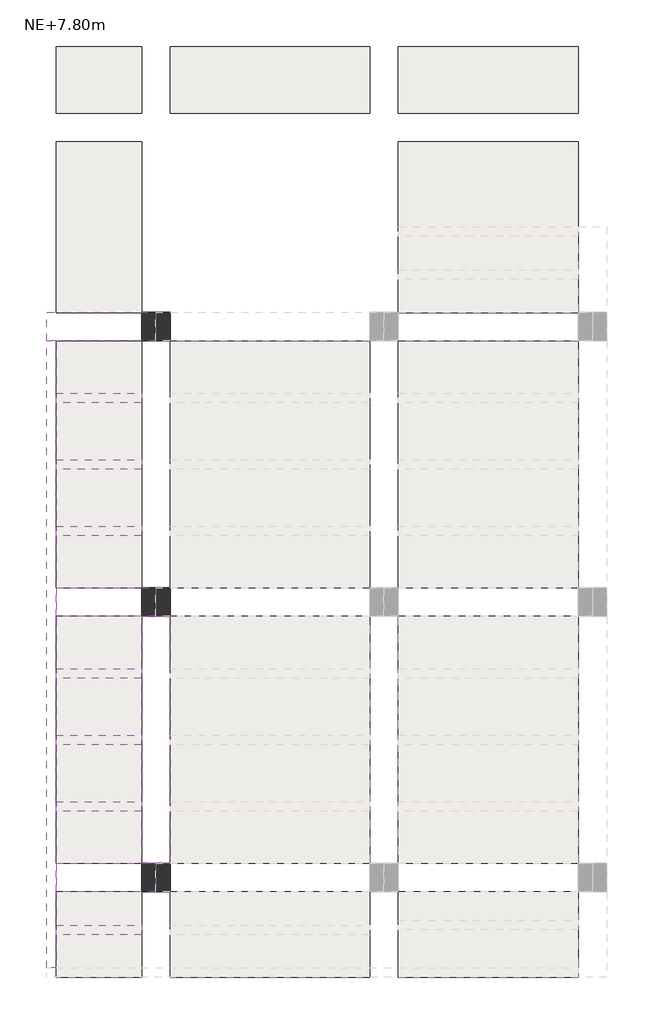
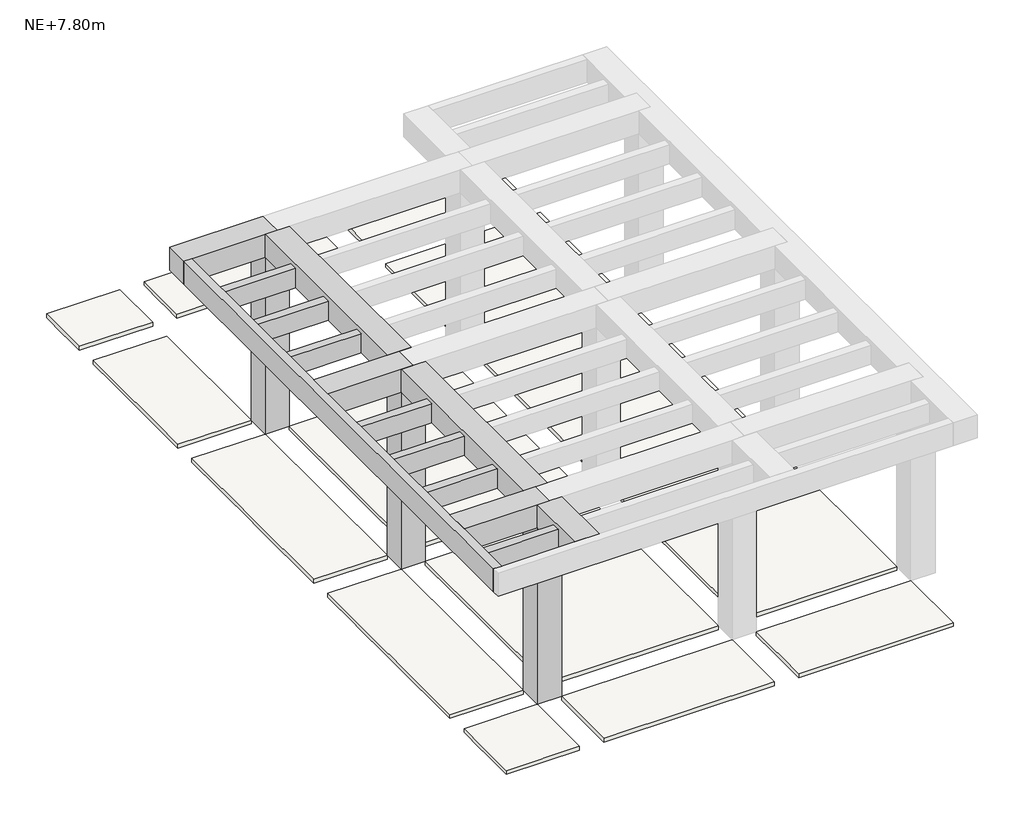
# One storey, part 1 of 2: 12 beams, 3 columns, 1 slab.
"""IFC4 building model written with IfcOpenShell, lengths in millimetres."""

from ifc_helpers import new_model, si_unit, frame, origin, place, context, project, spatial, polyline, outline, extrude, faceted_brep, element, save

model = new_model("IFC4")

# Units and contexts
model_context = context("Model", 3, world=origin())
ifc_project = project(units=[si_unit("LENGTHUNIT", "METRE", prefix="MILLI")], contexts=[model_context])

# Site, building, storey
site = spatial("IfcSite", under=ifc_project)
building = spatial("IfcBuilding", under=site)
storey = spatial("IfcBuildingStorey", under=building, Name="NE+7.80m", Elevation=7800.0)

# Beams
placement = place(None, origin())
element("IfcBeam", 1, ObjectType="Hormigón-Viga rectangular : VA (0.30x0.30m)", at=placement, inside=storey, context=model_context, shape_type="Brep", body=[
    faceted_brep([(-897.6811082, -1337.1867862, 10400.0), (-897.6811082, -1037.1867862, 10400.0), (-2047.6811082, -1037.1867862, 10400.0), (-2047.6811082, -1337.1867862, 10400.0), (-1947.6811082, -1337.1867862, 10400.0), (-1047.6811082, -1337.1867862, 10400.0), (-897.6811082, -1037.1867862, 10100.0), (-2047.6811082, -1037.1867862, 10100.0), (-897.6811082, -1337.1867862, 10100.0), (-1047.6811082, -1337.1867862, 10100.0), (-1947.6811082, -1337.1867862, 10100.0), (-2047.6811082, -1337.1867862, 10100.0)], [[[0, 1, 2, 3, 4, 5]], [[1, 6, 7, 2]], [[6, 8, 9, 10, 11, 7]], [[8, 0, 5, 4, 3, 11, 10, 9]], [[0, 8, 6, 1]], [[3, 2, 7, 11]]]),
])
element("IfcBeam", 2, ObjectType="Hormigón-Viga rectangular : VA (0.30x0.30m)", at=placement, inside=storey, context=model_context, shape_type="Brep", body=[
    faceted_brep([(-897.6811082, -4237.1867862, 10400.0), (-897.6811082, -3937.1867862, 10400.0), (-1047.6811082, -3937.1867862, 10400.0), (-1947.6811082, -3937.1867862, 10400.0), (-1947.6811082, -4237.1867862, 10400.0), (-1047.6811082, -4237.1867862, 10400.0), (-897.6811082, -3937.1867862, 10100.0), (-1047.6811082, -3937.1867862, 10100.0), (-1947.6811082, -3937.1867862, 10100.0), (-1947.6811082, -3937.1867862, 10350.0), (-897.6811082, -4237.1867862, 10100.0), (-1047.6811082, -4237.1867862, 10100.0), (-1947.6811082, -4237.1867862, 10100.0), (-1947.6811082, -4237.1867862, 10350.0)], [[[0, 1, 2, 3, 4, 5]], [[1, 6, 7, 8, 9, 3, 2]], [[6, 10, 11, 12, 8, 7]], [[10, 0, 5, 4, 13, 12, 11]], [[0, 10, 6, 1]], [[4, 3, 9, 8, 12, 13]]]),
])
element("IfcBeam", 3, ObjectType="Hormigón-Viga rectangular : VA (0.30x0.30m)", at=placement, inside=storey, context=model_context, shape_type="Brep", body=[
    faceted_brep([(-897.6811082, -7137.1867862, 10400.0), (-897.6811082, -6837.1867862, 10400.0), (-1047.6811082, -6837.1867862, 10400.0), (-1947.6811082, -6837.1867862, 10400.0), (-1947.6811082, -7137.1867862, 10400.0), (-1047.6811082, -7137.1867862, 10400.0), (-897.6811082, -6837.1867862, 10100.0), (-1047.6811082, -6837.1867862, 10100.0), (-1947.6811082, -6837.1867862, 10100.0), (-1947.6811082, -6837.1867862, 10350.0), (-897.6811082, -7137.1867862, 10100.0), (-1047.6811082, -7137.1867862, 10100.0), (-1947.6811082, -7137.1867862, 10100.0), (-1947.6811082, -7137.1867862, 10350.0)], [[[0, 1, 2, 3, 4, 5]], [[1, 6, 7, 8, 9, 3, 2]], [[6, 10, 11, 12, 8, 7]], [[10, 0, 5, 4, 13, 12, 11]], [[0, 10, 6, 1]], [[4, 3, 9, 8, 12, 13]]]),
])
element("IfcBeam", 4, ObjectType="Hormigón-Viga rectangular : VA (0.30x0.30m)", at=placement, inside=storey, context=model_context, shape_type="Brep", body=[
    faceted_brep([(-747.6811082, -7137.1867862, 10400.0), (-897.6811082, -7137.1867862, 10400.0), (-1047.6811082, -7137.1867862, 10400.0), (-1047.6811082, -7937.1867862, 10400.0), (-747.6811082, -7937.1867862, 10400.0), (-747.6811082, -7937.1867862, 10350.0), (-747.6811082, -7937.1867862, 10100.0), (-747.6811082, -7587.1867862, 10100.0), (-747.6811082, -7487.1867862, 10100.0), (-747.6811082, -7137.1867862, 10100.0), (-747.6811082, -7137.1867862, 10350.0), (-1047.6811082, -7137.1867862, 10100.0), (-897.6811082, -7137.1867862, 10100.0), (-1047.6811082, -7937.1867862, 10100.0), (-1047.6811082, -7587.1867862, 10100.0), (-1047.6811082, -7487.1867862, 10100.0), (-1047.6811082, -7137.1867862, 10350.0), (-1047.6811082, -7937.1867862, 10350.0)], [[[0, 1, 2, 3, 4]], [[0, 4, 5, 6, 7, 8, 9, 10]], [[11, 12, 9, 8, 7, 6, 13, 14, 15]], [[3, 2, 16, 11, 15, 14, 13, 17]], [[2, 1, 0, 10, 9, 12, 11, 16]], [[4, 3, 17, 13, 6, 5]]]),
    faceted_brep([(-1047.6811082, -1337.1867862, 10400.0), (-897.6811082, -1337.1867862, 10400.0), (-747.6811082, -1337.1867862, 10400.0), (-747.6811082, -1337.1867862, 10350.0), (-747.6811082, -1337.1867862, 10100.0), (-897.6811082, -1337.1867862, 10100.0), (-1047.6811082, -1337.1867862, 10100.0), (-1047.6811082, -1337.1867862, 10350.0), (-747.6811082, -3937.1867862, 10400.0), (-897.6811082, -3937.1867862, 10400.0), (-1047.6811082, -3937.1867862, 10400.0), (-1047.6811082, -3937.1867862, 10350.0), (-1047.6811082, -3937.1867862, 10100.0), (-897.6811082, -3937.1867862, 10100.0), (-747.6811082, -3937.1867862, 10100.0), (-747.6811082, -3937.1867862, 10350.0), (-747.6811082, -3387.1867862, 10100.0), (-747.6811082, -3287.1867862, 10100.0), (-747.6811082, -2687.1867862, 10100.0), (-747.6811082, -2587.1867862, 10100.0), (-747.6811082, -1987.1867862, 10100.0), (-747.6811082, -1887.1867862, 10100.0), (-1047.6811082, -3387.1867862, 10100.0), (-1047.6811082, -3287.1867862, 10100.0), (-1047.6811082, -2687.1867862, 10100.0), (-1047.6811082, -2587.1867862, 10100.0), (-1047.6811082, -1987.1867862, 10100.0), (-1047.6811082, -1887.1867862, 10100.0)], [[[0, 1, 2, 3, 4, 5, 6, 7]], [[8, 9, 10, 11, 12, 13, 14, 15]], [[2, 8, 15, 14, 16, 17, 18, 19, 20, 21, 4, 3]], [[2, 1, 0, 10, 9, 8]], [[6, 5, 4, 21, 20, 19, 18, 17, 16, 14, 13, 12, 22, 23, 24, 25, 26, 27]], [[10, 0, 7, 6, 27, 26, 25, 24, 23, 22, 12, 11]]]),
    faceted_brep([(-1047.6811082, -4237.1867862, 10400.0), (-897.6811082, -4237.1867862, 10400.0), (-747.6811082, -4237.1867862, 10400.0), (-747.6811082, -4237.1867862, 10350.0), (-747.6811082, -4237.1867862, 10100.0), (-897.6811082, -4237.1867862, 10100.0), (-1047.6811082, -4237.1867862, 10100.0), (-1047.6811082, -4237.1867862, 10350.0), (-747.6811082, -6837.1867862, 10400.0), (-897.6811082, -6837.1867862, 10400.0), (-1047.6811082, -6837.1867862, 10400.0), (-1047.6811082, -6837.1867862, 10350.0), (-1047.6811082, -6837.1867862, 10100.0), (-897.6811082, -6837.1867862, 10100.0), (-747.6811082, -6837.1867862, 10100.0), (-747.6811082, -6837.1867862, 10350.0), (-747.6811082, -6287.1867862, 10100.0), (-747.6811082, -6187.1867862, 10100.0), (-747.6811082, -5587.1867862, 10100.0), (-747.6811082, -5487.1867862, 10100.0), (-747.6811082, -4887.1867862, 10100.0), (-747.6811082, -4787.1867862, 10100.0), (-1047.6811082, -6287.1867862, 10100.0), (-1047.6811082, -6187.1867862, 10100.0), (-1047.6811082, -5587.1867862, 10100.0), (-1047.6811082, -5487.1867862, 10100.0), (-1047.6811082, -4887.1867862, 10100.0), (-1047.6811082, -4787.1867862, 10100.0)], [[[0, 1, 2, 3, 4, 5, 6, 7]], [[8, 9, 10, 11, 12, 13, 14, 15]], [[2, 8, 15, 14, 16, 17, 18, 19, 20, 21, 4, 3]], [[2, 1, 0, 10, 9, 8]], [[6, 5, 4, 21, 20, 19, 18, 17, 16, 14, 13, 12, 22, 23, 24, 25, 26, 27]], [[10, 0, 7, 6, 27, 26, 25, 24, 23, 22, 12, 11]]]),
])
element("IfcBeam", 5, ObjectType="Hormigón-Viga rectangular : VB (0.10x0.30m)", at=placement, inside=storey, context=model_context, shape_type="Brep", body=[
    faceted_brep([(-1947.6811082, -1337.1867862, 10400.0), (-2047.6811082, -1337.1867862, 10400.0), (-2047.6811082, -7937.1867862, 10400.0), (-1947.6811082, -7937.1867862, 10400.0), (-1947.6811082, -7137.1867862, 10400.0), (-1947.6811082, -6837.1867862, 10400.0), (-1947.6811082, -4237.1867862, 10400.0), (-1947.6811082, -3937.1867862, 10400.0), (-1947.6811082, -1337.1867862, 10100.0), (-1947.6811082, -1337.1867862, 10350.0), (-1947.6811082, -7937.1867862, 10350.0), (-1947.6811082, -7937.1867862, 10100.0), (-1947.6811082, -7587.1867862, 10100.0), (-1947.6811082, -7487.1867862, 10100.0), (-1947.6811082, -7137.1867862, 10100.0), (-1947.6811082, -6837.1867862, 10100.0), (-1947.6811082, -6287.1867862, 10100.0), (-1947.6811082, -6187.1867862, 10100.0), (-1947.6811082, -5587.1867862, 10100.0), (-1947.6811082, -5487.1867862, 10100.0), (-1947.6811082, -4887.1867862, 10100.0), (-1947.6811082, -4787.1867862, 10100.0), (-1947.6811082, -4237.1867862, 10100.0), (-1947.6811082, -3937.1867862, 10100.0), (-1947.6811082, -3387.1867862, 10100.0), (-1947.6811082, -3287.1867862, 10100.0), (-1947.6811082, -2687.1867862, 10100.0), (-1947.6811082, -2587.1867862, 10100.0), (-1947.6811082, -1987.1867862, 10100.0), (-1947.6811082, -1887.1867862, 10100.0), (-2047.6811082, -1337.1867862, 10100.0), (-2047.6811082, -7937.1867862, 10100.0)], [[[0, 1, 2, 3, 4, 5, 6, 7]], [[8, 9, 0, 7, 6, 5, 4, 3, 10, 11, 12, 13, 14, 15, 16, 17, 18, 19, 20, 21, 22, 23, 24, 25, 26, 27, 28, 29]], [[30, 8, 29, 28, 27, 26, 25, 24, 23, 22, 21, 20, 19, 18, 17, 16, 15, 14, 13, 12, 11, 31]], [[1, 30, 31, 2]], [[1, 0, 9, 8, 30]], [[3, 2, 31, 11, 10]]]),
])
element("IfcBeam", 6, ObjectType="Hormigón-Viga rectangular : VT (0.10x0.30m)", at=placement, inside=storey, context=model_context, shape_type="SweptSolid", body=[
    extrude(outline(polyline([(-1047.6811082, -6187.1867862), (-1047.6811082, -6287.1867862), (-1947.6811082, -6287.1867862), (-1947.6811082, -6187.1867862), (-1047.6811082, -6187.1867862)])), frame((0.0, 0.0, 10100.0), z_axis=(0.0, 0.0, 1.0), x_axis=(1.0, 0.0, 0.0)), (0.0, 0.0, 1.0), 250.0),
])
element("IfcBeam", 7, ObjectType="Hormigón-Viga rectangular : VT (0.10x0.30m)", at=placement, inside=storey, context=model_context, shape_type="SweptSolid", body=[
    extrude(outline(polyline([(-1047.6811082, -5487.1867862), (-1047.6811082, -5587.1867862), (-1947.6811082, -5587.1867862), (-1947.6811082, -5487.1867862), (-1047.6811082, -5487.1867862)])), frame((0.0, 0.0, 10100.0), z_axis=(0.0, 0.0, 1.0), x_axis=(1.0, 0.0, 0.0)), (0.0, 0.0, 1.0), 250.0),
])
element("IfcBeam", 8, ObjectType="Hormigón-Viga rectangular : VT (0.10x0.30m)", at=placement, inside=storey, context=model_context, shape_type="SweptSolid", body=[
    extrude(outline(polyline([(-1047.6811082, -4787.1867862), (-1047.6811082, -4887.1867862), (-1947.6811082, -4887.1867862), (-1947.6811082, -4787.1867862), (-1047.6811082, -4787.1867862)])), frame((0.0, 0.0, 10100.0), z_axis=(0.0, 0.0, 1.0), x_axis=(1.0, 0.0, 0.0)), (0.0, 0.0, 1.0), 250.0),
])
element("IfcBeam", 9, ObjectType="Hormigón-Viga rectangular : VT (0.10x0.30m)", at=placement, inside=storey, context=model_context, shape_type="SweptSolid", body=[
    extrude(outline(polyline([(-1047.6811082, -3287.1867862), (-1047.6811082, -3387.1867862), (-1947.6811082, -3387.1867862), (-1947.6811082, -3287.1867862), (-1047.6811082, -3287.1867862)])), frame((0.0, 0.0, 10100.0), z_axis=(0.0, 0.0, 1.0), x_axis=(1.0, 0.0, 0.0)), (0.0, 0.0, 1.0), 250.0),
])
element("IfcBeam", 10, ObjectType="Hormigón-Viga rectangular : VT (0.10x0.30m)", at=placement, inside=storey, context=model_context, shape_type="SweptSolid", body=[
    extrude(outline(polyline([(-1047.6811082, -2587.1867862), (-1047.6811082, -2687.1867862), (-1947.6811082, -2687.1867862), (-1947.6811082, -2587.1867862), (-1047.6811082, -2587.1867862)])), frame((0.0, 0.0, 10100.0), z_axis=(0.0, 0.0, 1.0), x_axis=(1.0, 0.0, 0.0)), (0.0, 0.0, 1.0), 250.0),
])
element("IfcBeam", 11, ObjectType="Hormigón-Viga rectangular : VT (0.10x0.30m)", at=placement, inside=storey, context=model_context, shape_type="SweptSolid", body=[
    extrude(outline(polyline([(-1047.6811082, -1887.1867862), (-1047.6811082, -1987.1867862), (-1947.6811082, -1987.1867862), (-1947.6811082, -1887.1867862), (-1047.6811082, -1887.1867862)])), frame((0.0, 0.0, 10100.0), z_axis=(0.0, 0.0, 1.0), x_axis=(1.0, 0.0, 0.0)), (0.0, 0.0, 1.0), 250.0),
])
element("IfcBeam", 12, ObjectType="Hormigón-Viga rectangular : VT (0.10x0.30m)", at=placement, inside=storey, context=model_context, shape_type="SweptSolid", body=[
    extrude(outline(polyline([(-1047.6811082, -7487.1867862), (-1047.6811082, -7587.1867862), (-1947.6811082, -7587.1867862), (-1947.6811082, -7487.1867862), (-1047.6811082, -7487.1867862)])), frame((0.0, 0.0, 10100.0), z_axis=(0.0, 0.0, 1.0), x_axis=(1.0, 0.0, 0.0)), (0.0, 0.0, 1.0), 250.0),
])

# Columns
element("IfcColumn", 13, ObjectType="Hormigón-Rectangular-Pilar : C1 (0.30x0.30m)", at=placement, inside=storey, context=model_context, shape_type="SweptSolid", body=[
    extrude(outline(polyline([(-747.6811082, -1037.1867862), (-747.6811082, -1337.1867862), (-1047.6811082, -1337.1867862), (-1047.6811082, -1037.1867862), (-747.6811082, -1037.1867862)])), frame((0.0, 0.0, 7800.0), z_axis=(0.0, 0.0, 1.0), x_axis=(1.0, 0.0, 0.0)), (0.0, 0.0, 1.0), 2300.0),
])
element("IfcColumn", 14, ObjectType="Hormigón-Rectangular-Pilar : C1 (0.30x0.30m)", at=placement, inside=storey, context=model_context, shape_type="SweptSolid", body=[
    extrude(outline(polyline([(-747.6811082, -3937.1867862), (-747.6811082, -4237.1867862), (-1047.6811082, -4237.1867862), (-1047.6811082, -3937.1867862), (-747.6811082, -3937.1867862)])), frame((0.0, 0.0, 7800.0), z_axis=(0.0, 0.0, 1.0), x_axis=(1.0, 0.0, 0.0)), (0.0, 0.0, 1.0), 2300.0),
])
element("IfcColumn", 15, ObjectType="Hormigón-Rectangular-Pilar : C1 (0.30x0.30m)", at=placement, inside=storey, context=model_context, shape_type="SweptSolid", body=[
    extrude(outline(polyline([(-747.6811082, -6837.1867862), (-747.6811082, -7137.1867862), (-1047.6811082, -7137.1867862), (-1047.6811082, -6837.1867862), (-747.6811082, -6837.1867862)])), frame((0.0, 0.0, 7800.0), z_axis=(0.0, 0.0, 1.0), x_axis=(1.0, 0.0, 0.0)), (0.0, 0.0, 1.0), 2300.0),
])

# Slab
element("IfcSlab", 16, ObjectType="Torta superior e=5cm", at=placement, inside=storey, context=model_context, shape_type="Brep", body=[
    faceted_brep([(3552.3188918, 1762.8132138, 7750.0), (3552.3188918, 1412.8132138, 7750.0), (3552.3188918, 1312.8132138, 7750.0), (3552.3188918, 1062.8132138, 7750.0), (1652.3188918, 1062.8132138, 7750.0), (1652.3188918, 1312.8132138, 7750.0), (1652.3188918, 1412.8132138, 7750.0), (1652.3188918, 1762.8132138, 7750.0), (3552.3188918, 1762.8132138, 7800.0), (1652.3188918, 1762.8132138, 7800.0), (1652.3188918, 1062.8132138, 7800.0), (3552.3188918, 1062.8132138, 7800.0)], [[[0, 1, 2, 3, 4, 5, 6, 7]], [[8, 9, 10, 11]], [[3, 2, 1, 0, 8, 11]], [[4, 3, 11, 10]], [[7, 6, 5, 4, 10, 9]], [[0, 7, 9, 8]]]),
    faceted_brep([(1352.3188918, 1762.8132138, 7750.0), (1352.3188918, 1412.8132138, 7750.0), (1352.3188918, 1312.8132138, 7750.0), (1352.3188918, 1062.8132138, 7750.0), (-747.6811082, 1062.8132138, 7750.0), (-747.6811082, 1312.8132138, 7750.0), (-747.6811082, 1412.8132138, 7750.0), (-747.6811082, 1762.8132138, 7750.0), (1352.3188918, 1762.8132138, 7800.0), (-747.6811082, 1762.8132138, 7800.0), (-747.6811082, 1062.8132138, 7800.0), (1352.3188918, 1062.8132138, 7800.0)], [[[0, 1, 2, 3, 4, 5, 6, 7]], [[8, 9, 10, 11]], [[3, 2, 1, 0, 8, 11]], [[4, 3, 11, 10]], [[7, 6, 5, 4, 10, 9]], [[0, 7, 9, 8]]]),
    faceted_brep([(-1047.6811082, 1762.8132138, 7750.0), (-1047.6811082, 1412.8132138, 7750.0), (-1047.6811082, 1312.8132138, 7750.0), (-1047.6811082, 1062.8132138, 7750.0), (-1947.6811082, 1062.8132138, 7750.0), (-1947.6811082, 1312.8132138, 7750.0), (-1947.6811082, 1412.8132138, 7750.0), (-1947.6811082, 1762.8132138, 7750.0), (-1047.6811082, 1762.8132138, 7800.0), (-1947.6811082, 1762.8132138, 7800.0), (-1947.6811082, 1062.8132138, 7800.0), (-1047.6811082, 1062.8132138, 7800.0)], [[[0, 1, 2, 3, 4, 5, 6, 7]], [[8, 9, 10, 11]], [[3, 2, 1, 0, 8, 11]], [[4, 3, 11, 10]], [[7, 6, 5, 4, 10, 9]], [[0, 7, 9, 8]]]),
    faceted_brep([(-1047.6811082, 762.8132138, 7750.0), (-1047.6811082, 612.8132138, 7750.0), (-1047.6811082, 512.8132138, 7750.0), (-1047.6811082, -87.1867862, 7750.0), (-1047.6811082, -187.1867862, 7750.0), (-1047.6811082, -787.1867862, 7750.0), (-1047.6811082, -887.1867862, 7750.0), (-1047.6811082, -1037.1867862, 7750.0), (-1947.6811082, -1037.1867862, 7750.0), (-1947.6811082, -887.1867862, 7750.0), (-1947.6811082, -787.1867862, 7750.0), (-1947.6811082, -187.1867862, 7750.0), (-1947.6811082, -87.1867862, 7750.0), (-1947.6811082, 512.8132138, 7750.0), (-1947.6811082, 612.8132138, 7750.0), (-1947.6811082, 762.8132138, 7750.0), (-1047.6811082, 762.8132138, 7800.0), (-1947.6811082, 762.8132138, 7800.0), (-1947.6811082, -1037.1867862, 7800.0), (-1047.6811082, -1037.1867862, 7800.0)], [[[0, 1, 2, 3, 4, 5, 6, 7, 8, 9, 10, 11, 12, 13, 14, 15]], [[16, 17, 18, 19]], [[7, 6, 5, 4, 3, 2, 1, 0, 16, 19]], [[8, 7, 19, 18]], [[15, 14, 13, 12, 11, 10, 9, 8, 18, 17]], [[0, 15, 17, 16]]]),
    faceted_brep([(3552.3188918, 762.8132138, 7750.0), (3552.3188918, 612.8132138, 7750.0), (3552.3188918, 512.8132138, 7750.0), (3552.3188918, -87.1867862, 7750.0), (3552.3188918, -187.1867862, 7750.0), (3552.3188918, -787.1867862, 7750.0), (3552.3188918, -887.1867862, 7750.0), (3552.3188918, -1037.1867862, 7750.0), (1652.3188918, -1037.1867862, 7750.0), (1652.3188918, -887.1867862, 7750.0), (1652.3188918, -787.1867862, 7750.0), (1652.3188918, -187.1867862, 7750.0), (1652.3188918, -87.1867862, 7750.0), (1652.3188918, 512.8132138, 7750.0), (1652.3188918, 612.8132138, 7750.0), (1652.3188918, 762.8132138, 7750.0), (3552.3188918, 762.8132138, 7800.0), (1652.3188918, 762.8132138, 7800.0), (1652.3188918, -1037.1867862, 7800.0), (3552.3188918, -1037.1867862, 7800.0)], [[[0, 1, 2, 3, 4, 5, 6, 7, 8, 9, 10, 11, 12, 13, 14, 15]], [[16, 17, 18, 19]], [[7, 6, 5, 4, 3, 2, 1, 0, 16, 19]], [[8, 7, 19, 18]], [[15, 14, 13, 12, 11, 10, 9, 8, 18, 17]], [[0, 15, 17, 16]]]),
    faceted_brep([(3552.3188918, -1337.1867862, 7750.0), (3552.3188918, -1887.1867862, 7750.0), (3552.3188918, -1987.1867862, 7750.0), (3552.3188918, -2587.1867862, 7750.0), (3552.3188918, -2687.1867862, 7750.0), (3552.3188918, -3287.1867862, 7750.0), (3552.3188918, -3387.1867862, 7750.0), (3552.3188918, -3937.1867862, 7750.0), (1652.3188918, -3937.1867862, 7750.0), (1652.3188918, -3387.1867862, 7750.0), (1652.3188918, -3287.1867862, 7750.0), (1652.3188918, -2687.1867862, 7750.0), (1652.3188918, -2587.1867862, 7750.0), (1652.3188918, -1987.1867862, 7750.0), (1652.3188918, -1887.1867862, 7750.0), (1652.3188918, -1337.1867862, 7750.0), (3552.3188918, -1337.1867862, 7800.0), (1652.3188918, -1337.1867862, 7800.0), (1652.3188918, -3937.1867862, 7800.0), (3552.3188918, -3937.1867862, 7800.0)], [[[0, 1, 2, 3, 4, 5, 6, 7, 8, 9, 10, 11, 12, 13, 14, 15]], [[16, 17, 18, 19]], [[7, 6, 5, 4, 3, 2, 1, 0, 16, 19]], [[8, 7, 19, 18]], [[15, 14, 13, 12, 11, 10, 9, 8, 18, 17]], [[0, 15, 17, 16]]]),
    faceted_brep([(1352.3188918, -1337.1867862, 7750.0), (1352.3188918, -1887.1867862, 7750.0), (1352.3188918, -1987.1867862, 7750.0), (1352.3188918, -2587.1867862, 7750.0), (1352.3188918, -2687.1867862, 7750.0), (1352.3188918, -3287.1867862, 7750.0), (1352.3188918, -3387.1867862, 7750.0), (1352.3188918, -3937.1867862, 7750.0), (-747.6811082, -3937.1867862, 7750.0), (-747.6811082, -3387.1867862, 7750.0), (-747.6811082, -3287.1867862, 7750.0), (-747.6811082, -2687.1867862, 7750.0), (-747.6811082, -2587.1867862, 7750.0), (-747.6811082, -1987.1867862, 7750.0), (-747.6811082, -1887.1867862, 7750.0), (-747.6811082, -1337.1867862, 7750.0), (1352.3188918, -1337.1867862, 7800.0), (-747.6811082, -1337.1867862, 7800.0), (-747.6811082, -3937.1867862, 7800.0), (1352.3188918, -3937.1867862, 7800.0)], [[[0, 1, 2, 3, 4, 5, 6, 7, 8, 9, 10, 11, 12, 13, 14, 15]], [[16, 17, 18, 19]], [[7, 6, 5, 4, 3, 2, 1, 0, 16, 19]], [[8, 7, 19, 18]], [[15, 14, 13, 12, 11, 10, 9, 8, 18, 17]], [[0, 15, 17, 16]]]),
    faceted_brep([(-1047.6811082, -1337.1867862, 7750.0), (-1047.6811082, -1887.1867862, 7750.0), (-1047.6811082, -1987.1867862, 7750.0), (-1047.6811082, -2587.1867862, 7750.0), (-1047.6811082, -2687.1867862, 7750.0), (-1047.6811082, -3287.1867862, 7750.0), (-1047.6811082, -3387.1867862, 7750.0), (-1047.6811082, -3937.1867862, 7750.0), (-1947.6811082, -3937.1867862, 7750.0), (-1947.6811082, -3387.1867862, 7750.0), (-1947.6811082, -3287.1867862, 7750.0), (-1947.6811082, -2687.1867862, 7750.0), (-1947.6811082, -2587.1867862, 7750.0), (-1947.6811082, -1987.1867862, 7750.0), (-1947.6811082, -1887.1867862, 7750.0), (-1947.6811082, -1337.1867862, 7750.0), (-1047.6811082, -1337.1867862, 7800.0), (-1947.6811082, -1337.1867862, 7800.0), (-1947.6811082, -3937.1867862, 7800.0), (-1047.6811082, -3937.1867862, 7800.0)], [[[0, 1, 2, 3, 4, 5, 6, 7, 8, 9, 10, 11, 12, 13, 14, 15]], [[16, 17, 18, 19]], [[7, 6, 5, 4, 3, 2, 1, 0, 16, 19]], [[8, 7, 19, 18]], [[15, 14, 13, 12, 11, 10, 9, 8, 18, 17]], [[0, 15, 17, 16]]]),
    faceted_brep([(-1047.6811082, -4237.1867862, 7750.0), (-1047.6811082, -4787.1867862, 7750.0), (-1047.6811082, -4887.1867862, 7750.0), (-1047.6811082, -5487.1867862, 7750.0), (-1047.6811082, -5587.1867862, 7750.0), (-1047.6811082, -6187.1867862, 7750.0), (-1047.6811082, -6287.1867862, 7750.0), (-1047.6811082, -6837.1867862, 7750.0), (-1947.6811082, -6837.1867862, 7750.0), (-1947.6811082, -6287.1867862, 7750.0), (-1947.6811082, -6187.1867862, 7750.0), (-1947.6811082, -5587.1867862, 7750.0), (-1947.6811082, -5487.1867862, 7750.0), (-1947.6811082, -4887.1867862, 7750.0), (-1947.6811082, -4787.1867862, 7750.0), (-1947.6811082, -4237.1867862, 7750.0), (-1047.6811082, -4237.1867862, 7800.0), (-1947.6811082, -4237.1867862, 7800.0), (-1947.6811082, -6837.1867862, 7800.0), (-1047.6811082, -6837.1867862, 7800.0)], [[[0, 1, 2, 3, 4, 5, 6, 7, 8, 9, 10, 11, 12, 13, 14, 15]], [[16, 17, 18, 19]], [[7, 6, 5, 4, 3, 2, 1, 0, 16, 19]], [[8, 7, 19, 18]], [[15, 14, 13, 12, 11, 10, 9, 8, 18, 17]], [[0, 15, 17, 16]]]),
    faceted_brep([(1352.3188918, -4237.1867862, 7750.0), (1352.3188918, -4787.1867862, 7750.0), (1352.3188918, -4887.1867862, 7750.0), (1352.3188918, -5487.1867862, 7750.0), (1352.3188918, -5587.1867862, 7750.0), (1352.3188918, -6187.1867862, 7750.0), (1352.3188918, -6287.1867862, 7750.0), (1352.3188918, -6837.1867862, 7750.0), (-747.6811082, -6837.1867862, 7750.0), (-747.6811082, -6287.1867862, 7750.0), (-747.6811082, -6187.1867862, 7750.0), (-747.6811082, -5587.1867862, 7750.0), (-747.6811082, -5487.1867862, 7750.0), (-747.6811082, -4887.1867862, 7750.0), (-747.6811082, -4787.1867862, 7750.0), (-747.6811082, -4237.1867862, 7750.0), (1352.3188918, -4237.1867862, 7800.0), (-747.6811082, -4237.1867862, 7800.0), (-747.6811082, -6837.1867862, 7800.0), (1352.3188918, -6837.1867862, 7800.0)], [[[0, 1, 2, 3, 4, 5, 6, 7, 8, 9, 10, 11, 12, 13, 14, 15]], [[16, 17, 18, 19]], [[7, 6, 5, 4, 3, 2, 1, 0, 16, 19]], [[8, 7, 19, 18]], [[15, 14, 13, 12, 11, 10, 9, 8, 18, 17]], [[0, 15, 17, 16]]]),
    faceted_brep([(3552.3188918, -4237.1867862, 7750.0), (3552.3188918, -4787.1867862, 7750.0), (3552.3188918, -4887.1867862, 7750.0), (3552.3188918, -5487.1867862, 7750.0), (3552.3188918, -5587.1867862, 7750.0), (3552.3188918, -6187.1867862, 7750.0), (3552.3188918, -6287.1867862, 7750.0), (3552.3188918, -6837.1867862, 7750.0), (1652.3188918, -6837.1867862, 7750.0), (1652.3188918, -6287.1867862, 7750.0), (1652.3188918, -6187.1867862, 7750.0), (1652.3188918, -5587.1867862, 7750.0), (1652.3188918, -5487.1867862, 7750.0), (1652.3188918, -4887.1867862, 7750.0), (1652.3188918, -4787.1867862, 7750.0), (1652.3188918, -4237.1867862, 7750.0), (3552.3188918, -4237.1867862, 7800.0), (1652.3188918, -4237.1867862, 7800.0), (1652.3188918, -6837.1867862, 7800.0), (3552.3188918, -6837.1867862, 7800.0)], [[[0, 1, 2, 3, 4, 5, 6, 7, 8, 9, 10, 11, 12, 13, 14, 15]], [[16, 17, 18, 19]], [[7, 6, 5, 4, 3, 2, 1, 0, 16, 19]], [[8, 7, 19, 18]], [[15, 14, 13, 12, 11, 10, 9, 8, 18, 17]], [[0, 15, 17, 16]]]),
    faceted_brep([(3552.3188918, -7137.1867862, 7750.0), (3552.3188918, -7487.1867862, 7750.0), (3552.3188918, -7587.1867862, 7750.0), (3552.3188918, -8037.1867862, 7750.0), (1652.3188918, -8037.1867862, 7750.0), (1652.3188918, -7587.1867862, 7750.0), (1652.3188918, -7487.1867862, 7750.0), (1652.3188918, -7137.1867862, 7750.0), (3552.3188918, -7137.1867862, 7800.0), (1652.3188918, -7137.1867862, 7800.0), (1652.3188918, -8037.1867862, 7800.0), (3552.3188918, -8037.1867862, 7800.0)], [[[0, 1, 2, 3, 4, 5, 6, 7]], [[8, 9, 10, 11]], [[3, 2, 1, 0, 8, 11]], [[4, 3, 11, 10]], [[7, 6, 5, 4, 10, 9]], [[0, 7, 9, 8]]]),
    faceted_brep([(-1047.6811082, -7137.1867862, 7750.0), (-1047.6811082, -7487.1867862, 7750.0), (-1047.6811082, -7587.1867862, 7750.0), (-1047.6811082, -8037.1867862, 7750.0), (-1947.6811082, -8037.1867862, 7750.0), (-1947.6811082, -7587.1867862, 7750.0), (-1947.6811082, -7487.1867862, 7750.0), (-1947.6811082, -7137.1867862, 7750.0), (-1047.6811082, -7137.1867862, 7800.0), (-1947.6811082, -7137.1867862, 7800.0), (-1947.6811082, -8037.1867862, 7800.0), (-1047.6811082, -8037.1867862, 7800.0)], [[[0, 1, 2, 3, 4, 5, 6, 7]], [[8, 9, 10, 11]], [[3, 2, 1, 0, 8, 11]], [[4, 3, 11, 10]], [[7, 6, 5, 4, 10, 9]], [[0, 7, 9, 8]]]),
    faceted_brep([(1352.3188918, -7137.1867862, 7750.0), (1352.3188918, -7487.1867862, 7750.0), (1352.3188918, -7587.1867862, 7750.0), (1352.3188918, -8037.1867862, 7750.0), (-747.6811082, -8037.1867862, 7750.0), (-747.6811082, -7587.1867862, 7750.0), (-747.6811082, -7487.1867862, 7750.0), (-747.6811082, -7137.1867862, 7750.0), (1352.3188918, -7137.1867862, 7800.0), (-747.6811082, -7137.1867862, 7800.0), (-747.6811082, -8037.1867862, 7800.0), (1352.3188918, -8037.1867862, 7800.0)], [[[0, 1, 2, 3, 4, 5, 6, 7]], [[8, 9, 10, 11]], [[3, 2, 1, 0, 8, 11]], [[4, 3, 11, 10]], [[7, 6, 5, 4, 10, 9]], [[0, 7, 9, 8]]]),
])

save(model, "model.ifc")
